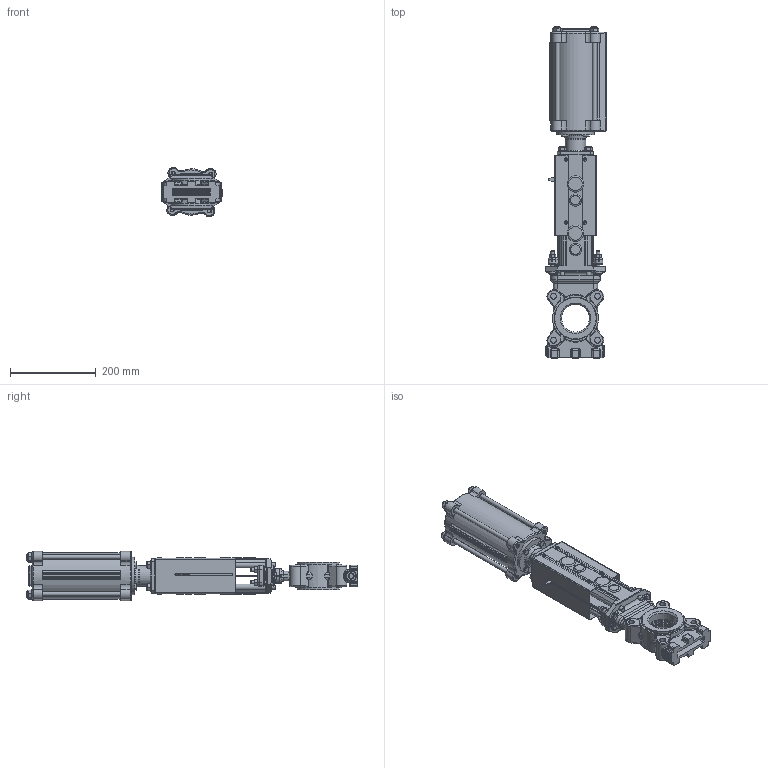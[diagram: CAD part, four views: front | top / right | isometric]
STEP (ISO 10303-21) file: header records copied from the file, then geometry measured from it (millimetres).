
FILE_DESCRIPTION(/* description */ (''),/* implementation_level */ '2;1');
FILE_NAME(/* name */ 'F:\Emir\3D-block special\SLV\SLV-DN65-PN10-FRSC100-115.stp',/* time_stamp */ '2018-07-11T07:46:08+02:00',/* author */ ('emimus'),/* organization */ (''),/* preprocessor_version */ 'ST-DEVELOPER v17',/* originating_system */ 'Autodesk Inventor 2018',/* authorisation */ '');
FILE_SCHEMA (('CONFIG_CONTROL_DESIGN'));
Products named in the file (1): SLV-DN65-PN10-FRSC100-115_Shrinkwrap_1
Bounding box: 141.63 x 773.5 x 114.74 mm (x, y, z)
Volume: 2449897.4 mm3; surface area: 909425.2 mm2
Topology: 5 solids, 5 shells, 2542 faces, 6487 edges, 4067 vertices
Faces by surface type: plane 887, cylinder 734, torus 325, cone 282, bspline 214, sphere 100
Full cylindrical faces by diameter (mm): 3 x10, 4 x6, 4.134 x4, 4.2 x16, 4.5 x4, 4.917 x4, 6 x5, 8 x19, 8.4 x4, 8.88 x1, 9 x6, 10 x20, 10.106 x1, 10.5 x8, 11 x8, 11.445 x2, 11.63 x4, 12 x2, 13.835 x8, 14 x5, 14.376 x1, 15 x6, 15.5 x1, 16 x4, 18 x4, 20 x9, 20.15 x2, 22 x1, 24 x5, 25.8 x2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
Entity records: 91300 total; most frequent: CARTESIAN_POINT 30388, DIRECTION 13094, ORIENTED_EDGE 12898, EDGE_CURVE 6449, AXIS2_PLACEMENT_3D 5481, VERTEX_POINT 4067, CIRCLE 2902, EDGE_LOOP 2802
